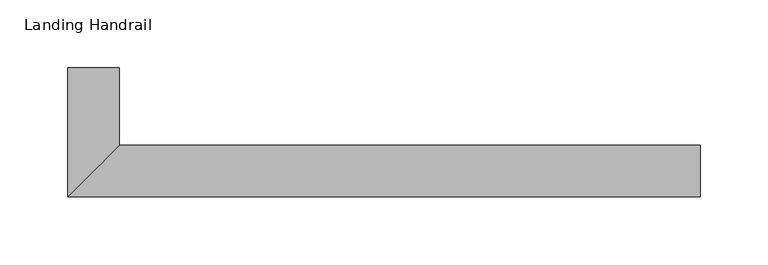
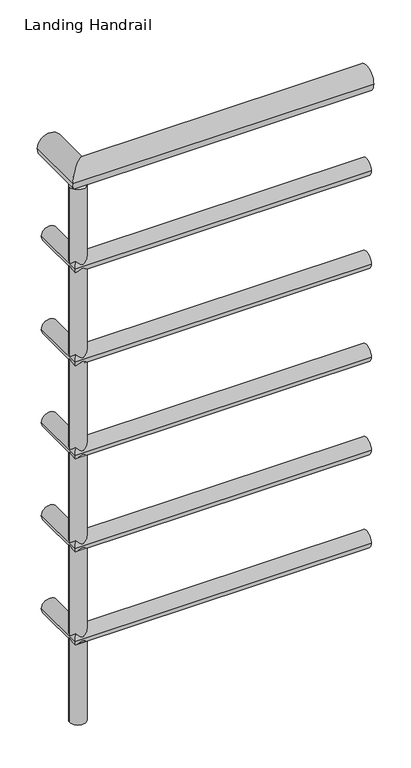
"""IFC4 building model written with IfcOpenShell, lengths in millimetres: railing geometry, Landing Handrail."""

from ifc_helpers import new_model, si_unit, point, frame, frame_2d, origin, place, context, project, spatial, circle_curve, ellipse_curve, trimmed, segment, composite_curve, outline, extrude, source, transform, mapped, element, save
from ifc_brep_helpers import plane_surface, cylinder_surface, advanced_brep


def landing_handrail_f55fafa1(model_context):
    return source(origin(), model_context, "Body", "SolidModel", [
        advanced_brep(
        [(-20724.262755, 6622.8987109, 6381.75), (-20686.162755, 6622.8987109, 6381.75), (-20686.162755, 6565.7487109, 6381.75), (-20724.262755, 6527.6487109, 6381.75), (-20257.537755, 6527.6487109, 6381.75), (-20257.537755, 6565.7487109, 6381.75)],
        [
            (0, 1, circle_curve(frame((-20705.212755, 6622.8987109, 6381.75), z_axis=(0.0, 1.0, 0.0), x_axis=(1.0, 0.0, 0.0)), 19.05)),
            (1, 0, circle_curve(frame((-20705.212755, 6622.8987109, 6381.75), z_axis=(0.0, 1.0, 0.0), x_axis=(1.0, 0.0, 0.0)), 19.05)),
            (1, 2),
            (2, 3, ellipse_curve(frame((-20705.212755, 6546.6987109, 6381.75), z_axis=(-0.7071067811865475, 0.7071067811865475, 0.0), x_axis=(0.7071067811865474, 0.7071067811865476, 0.0)), 26.9407684, 19.05)),
            (3, 0),
            (3, 2, ellipse_curve(frame((-20705.212755, 6546.6987109, 6381.75), z_axis=(-0.7071067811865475, 0.7071067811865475, 0.0), x_axis=(0.7071067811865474, 0.7071067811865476, 0.0)), 26.9407684, 19.05)),
            (4, 5, circle_curve(frame((-20257.537755, 6546.6987109, 6381.75), z_axis=(1.0, 0.0, 0.0), x_axis=(0.0, 1.0, 0.0)), 19.05)),
            (5, 4, circle_curve(frame((-20257.537755, 6546.6987109, 6381.75), z_axis=(1.0, 0.0, 0.0), x_axis=(0.0, 1.0, 0.0)), 19.05)),
            (2, 5),
            (4, 3),
        ],
        [
            plane_surface(frame((-20705.212755, 6622.8987109, 6400.8), z_axis=(0.0, 1.0, 0.0), x_axis=(0.0, 0.0, -1.0))),
            cylinder_surface(frame((-20705.212755, 6622.8987109, 6381.75), z_axis=(0.0, 1.0, 0.0), x_axis=(1.0, 0.0, 0.0)), 19.05),
            plane_surface(frame((-20257.537755, 6546.6987109, 6400.8), z_axis=(1.0, 0.0, 0.0), x_axis=(0.0, 1.0, 0.0))),
            cylinder_surface(frame((-20705.212755, 6546.6987109, 6381.75), z_axis=(-1.0, 0.0, 0.0), x_axis=(0.0, 1.0, 0.0)), 19.05),
        ],
        [
            (0, [[1, 2]]),
            (1, [[-2, 3, 4, 5]]),
            (1, [[-1, -5, 6, -3]]),
            (2, [[7, 8]]),
            (3, [[-4, 9, -7, 10]]),
            (3, [[-6, -10, -8, -9]]),
        ],
    ),
        advanced_brep(
        [(-20717.912755, 6622.8987109, 6235.7), (-20692.512755, 6622.8987109, 6235.7), (-20692.512755, 6559.3987109, 6235.7), (-20717.912755, 6533.9987109, 6235.7), (-20257.537755, 6533.9987109, 6235.7), (-20257.537755, 6559.3987109, 6235.7)],
        [
            (0, 1, circle_curve(frame((-20705.212755, 6622.8987109, 6235.7), z_axis=(0.0, 1.0, 0.0), x_axis=(1.0, 0.0, 0.0)), 12.7)),
            (1, 0, circle_curve(frame((-20705.212755, 6622.8987109, 6235.7), z_axis=(0.0, 1.0, 0.0), x_axis=(1.0, 0.0, 0.0)), 12.7)),
            (1, 2),
            (2, 3, ellipse_curve(frame((-20705.212755, 6546.6987109, 6235.7), z_axis=(-0.7071067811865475, 0.7071067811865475, 0.0), x_axis=(0.7071067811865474, 0.7071067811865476, 0.0)), 17.9605122, 12.7)),
            (3, 0),
            (3, 2, ellipse_curve(frame((-20705.212755, 6546.6987109, 6235.7), z_axis=(-0.7071067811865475, 0.7071067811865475, 0.0), x_axis=(0.7071067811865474, 0.7071067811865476, 0.0)), 17.9605122, 12.7)),
            (4, 5, circle_curve(frame((-20257.537755, 6546.6987109, 6235.7), z_axis=(1.0, 0.0, 0.0), x_axis=(0.0, 1.0, 0.0)), 12.7)),
            (5, 4, circle_curve(frame((-20257.537755, 6546.6987109, 6235.7), z_axis=(1.0, 0.0, 0.0), x_axis=(0.0, 1.0, 0.0)), 12.7)),
            (2, 5),
            (4, 3),
        ],
        [
            plane_surface(frame((-20705.212755, 6622.8987109, 6248.4), z_axis=(0.0, 1.0, 0.0), x_axis=(0.0, 0.0, -1.0))),
            cylinder_surface(frame((-20705.212755, 6622.8987109, 6235.7), z_axis=(0.0, 1.0, 0.0), x_axis=(1.0, 0.0, 0.0)), 12.7),
            plane_surface(frame((-20257.537755, 6546.6987109, 6248.4), z_axis=(1.0, 0.0, 0.0), x_axis=(0.0, 1.0, 0.0))),
            cylinder_surface(frame((-20705.212755, 6546.6987109, 6235.7), z_axis=(-1.0, 0.0, 0.0), x_axis=(0.0, 1.0, 0.0)), 12.7),
        ],
        [
            (0, [[1, 2]]),
            (1, [[-2, 3, 4, 5]]),
            (1, [[-1, -5, 6, -3]]),
            (2, [[7, 8]]),
            (3, [[-4, 9, -7, 10]]),
            (3, [[-6, -10, -8, -9]]),
        ],
    ),
        advanced_brep(
        [(-20717.912755, 6622.8987109, 6083.3), (-20692.512755, 6622.8987109, 6083.3), (-20692.512755, 6559.3987109, 6083.3), (-20717.912755, 6533.9987109, 6083.3), (-20257.537755, 6533.9987109, 6083.3), (-20257.537755, 6559.3987109, 6083.3)],
        [
            (0, 1, circle_curve(frame((-20705.212755, 6622.8987109, 6083.3), z_axis=(0.0, 1.0, 0.0), x_axis=(1.0, 0.0, 0.0)), 12.7)),
            (1, 0, circle_curve(frame((-20705.212755, 6622.8987109, 6083.3), z_axis=(0.0, 1.0, 0.0), x_axis=(1.0, 0.0, 0.0)), 12.7)),
            (1, 2),
            (2, 3, ellipse_curve(frame((-20705.212755, 6546.6987109, 6083.3), z_axis=(-0.7071067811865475, 0.7071067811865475, 0.0), x_axis=(0.7071067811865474, 0.7071067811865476, 0.0)), 17.9605122, 12.7)),
            (3, 0),
            (3, 2, ellipse_curve(frame((-20705.212755, 6546.6987109, 6083.3), z_axis=(-0.7071067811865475, 0.7071067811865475, 0.0), x_axis=(0.7071067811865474, 0.7071067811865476, 0.0)), 17.9605122, 12.7)),
            (4, 5, circle_curve(frame((-20257.537755, 6546.6987109, 6083.3), z_axis=(1.0, 0.0, 0.0), x_axis=(0.0, 1.0, 0.0)), 12.7)),
            (5, 4, circle_curve(frame((-20257.537755, 6546.6987109, 6083.3), z_axis=(1.0, 0.0, 0.0), x_axis=(0.0, 1.0, 0.0)), 12.7)),
            (2, 5),
            (4, 3),
        ],
        [
            plane_surface(frame((-20705.212755, 6622.8987109, 6096.0), z_axis=(0.0, 1.0, 0.0), x_axis=(0.0, 0.0, -1.0))),
            cylinder_surface(frame((-20705.212755, 6622.8987109, 6083.3), z_axis=(0.0, 1.0, 0.0), x_axis=(1.0, 0.0, 0.0)), 12.7),
            plane_surface(frame((-20257.537755, 6546.6987109, 6096.0), z_axis=(1.0, 0.0, 0.0), x_axis=(0.0, 1.0, 0.0))),
            cylinder_surface(frame((-20705.212755, 6546.6987109, 6083.3), z_axis=(-1.0, 0.0, 0.0), x_axis=(0.0, 1.0, 0.0)), 12.7),
        ],
        [
            (0, [[1, 2]]),
            (1, [[-2, 3, 4, 5]]),
            (1, [[-1, -5, 6, -3]]),
            (2, [[7, 8]]),
            (3, [[-4, 9, -7, 10]]),
            (3, [[-6, -10, -8, -9]]),
        ],
    ),
        advanced_brep(
        [(-20717.912755, 6622.8987109, 5930.9), (-20692.512755, 6622.8987109, 5930.9), (-20692.512755, 6559.3987109, 5930.9), (-20717.912755, 6533.9987109, 5930.9), (-20257.537755, 6533.9987109, 5930.9), (-20257.537755, 6559.3987109, 5930.9)],
        [
            (0, 1, circle_curve(frame((-20705.212755, 6622.8987109, 5930.9), z_axis=(0.0, 1.0, 0.0), x_axis=(1.0, 0.0, 0.0)), 12.7)),
            (1, 0, circle_curve(frame((-20705.212755, 6622.8987109, 5930.9), z_axis=(0.0, 1.0, 0.0), x_axis=(1.0, 0.0, 0.0)), 12.7)),
            (1, 2),
            (2, 3, ellipse_curve(frame((-20705.212755, 6546.6987109, 5930.9), z_axis=(-0.7071067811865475, 0.7071067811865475, 0.0), x_axis=(0.7071067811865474, 0.7071067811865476, 0.0)), 17.9605122, 12.7)),
            (3, 0),
            (3, 2, ellipse_curve(frame((-20705.212755, 6546.6987109, 5930.9), z_axis=(-0.7071067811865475, 0.7071067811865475, 0.0), x_axis=(0.7071067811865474, 0.7071067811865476, 0.0)), 17.9605122, 12.7)),
            (4, 5, circle_curve(frame((-20257.537755, 6546.6987109, 5930.9), z_axis=(1.0, 0.0, 0.0), x_axis=(0.0, 1.0, 0.0)), 12.7)),
            (5, 4, circle_curve(frame((-20257.537755, 6546.6987109, 5930.9), z_axis=(1.0, 0.0, 0.0), x_axis=(0.0, 1.0, 0.0)), 12.7)),
            (2, 5),
            (4, 3),
        ],
        [
            plane_surface(frame((-20705.212755, 6622.8987109, 5943.6), z_axis=(0.0, 1.0, 0.0), x_axis=(0.0, 0.0, -1.0))),
            cylinder_surface(frame((-20705.212755, 6622.8987109, 5930.9), z_axis=(0.0, 1.0, 0.0), x_axis=(1.0, 0.0, 0.0)), 12.7),
            plane_surface(frame((-20257.537755, 6546.6987109, 5943.6), z_axis=(1.0, 0.0, 0.0), x_axis=(0.0, 1.0, 0.0))),
            cylinder_surface(frame((-20705.212755, 6546.6987109, 5930.9), z_axis=(-1.0, 0.0, 0.0), x_axis=(0.0, 1.0, 0.0)), 12.7),
        ],
        [
            (0, [[1, 2]]),
            (1, [[-2, 3, 4, 5]]),
            (1, [[-1, -5, 6, -3]]),
            (2, [[7, 8]]),
            (3, [[-4, 9, -7, 10]]),
            (3, [[-6, -10, -8, -9]]),
        ],
    ),
        advanced_brep(
        [(-20717.912755, 6622.8987109, 5778.5), (-20692.512755, 6622.8987109, 5778.5), (-20692.512755, 6559.3987109, 5778.5), (-20717.912755, 6533.9987109, 5778.5), (-20257.537755, 6533.9987109, 5778.5), (-20257.537755, 6559.3987109, 5778.5)],
        [
            (0, 1, circle_curve(frame((-20705.212755, 6622.8987109, 5778.5), z_axis=(0.0, 1.0, 0.0), x_axis=(1.0, 0.0, 0.0)), 12.7)),
            (1, 0, circle_curve(frame((-20705.212755, 6622.8987109, 5778.5), z_axis=(0.0, 1.0, 0.0), x_axis=(1.0, 0.0, 0.0)), 12.7)),
            (1, 2),
            (2, 3, ellipse_curve(frame((-20705.212755, 6546.6987109, 5778.5), z_axis=(-0.7071067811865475, 0.7071067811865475, 0.0), x_axis=(0.7071067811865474, 0.7071067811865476, 0.0)), 17.9605122, 12.7)),
            (3, 0),
            (3, 2, ellipse_curve(frame((-20705.212755, 6546.6987109, 5778.5), z_axis=(-0.7071067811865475, 0.7071067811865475, 0.0), x_axis=(0.7071067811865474, 0.7071067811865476, 0.0)), 17.9605122, 12.7)),
            (4, 5, circle_curve(frame((-20257.537755, 6546.6987109, 5778.5), z_axis=(1.0, 0.0, 0.0), x_axis=(0.0, 1.0, 0.0)), 12.7)),
            (5, 4, circle_curve(frame((-20257.537755, 6546.6987109, 5778.5), z_axis=(1.0, 0.0, 0.0), x_axis=(0.0, 1.0, 0.0)), 12.7)),
            (2, 5),
            (4, 3),
        ],
        [
            plane_surface(frame((-20705.212755, 6622.8987109, 5791.2), z_axis=(0.0, 1.0, 0.0), x_axis=(0.0, 0.0, -1.0))),
            cylinder_surface(frame((-20705.212755, 6622.8987109, 5778.5), z_axis=(0.0, 1.0, 0.0), x_axis=(1.0, 0.0, 0.0)), 12.7),
            plane_surface(frame((-20257.537755, 6546.6987109, 5791.2), z_axis=(1.0, 0.0, 0.0), x_axis=(0.0, 1.0, 0.0))),
            cylinder_surface(frame((-20705.212755, 6546.6987109, 5778.5), z_axis=(-1.0, 0.0, 0.0), x_axis=(0.0, 1.0, 0.0)), 12.7),
        ],
        [
            (0, [[1, 2]]),
            (1, [[-2, 3, 4, 5]]),
            (1, [[-1, -5, 6, -3]]),
            (2, [[7, 8]]),
            (3, [[-4, 9, -7, 10]]),
            (3, [[-6, -10, -8, -9]]),
        ],
    ),
        advanced_brep(
        [(-20717.912755, 6622.8987109, 5626.1), (-20692.512755, 6622.8987109, 5626.1), (-20692.512755, 6559.3987109, 5626.1), (-20717.912755, 6533.9987109, 5626.1), (-20257.537755, 6533.9987109, 5626.1), (-20257.537755, 6559.3987109, 5626.1)],
        [
            (0, 1, circle_curve(frame((-20705.212755, 6622.8987109, 5626.1), z_axis=(0.0, 1.0, 0.0), x_axis=(1.0, 0.0, 0.0)), 12.7)),
            (1, 0, circle_curve(frame((-20705.212755, 6622.8987109, 5626.1), z_axis=(0.0, 1.0, 0.0), x_axis=(1.0, 0.0, 0.0)), 12.7)),
            (1, 2),
            (2, 3, ellipse_curve(frame((-20705.212755, 6546.6987109, 5626.1), z_axis=(-0.7071067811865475, 0.7071067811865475, 0.0), x_axis=(0.7071067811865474, 0.7071067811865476, 0.0)), 17.9605122, 12.7)),
            (3, 0),
            (3, 2, ellipse_curve(frame((-20705.212755, 6546.6987109, 5626.1), z_axis=(-0.7071067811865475, 0.7071067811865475, 0.0), x_axis=(0.7071067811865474, 0.7071067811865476, 0.0)), 17.9605122, 12.7)),
            (4, 5, circle_curve(frame((-20257.537755, 6546.6987109, 5626.1), z_axis=(1.0, 0.0, 0.0), x_axis=(0.0, 1.0, 0.0)), 12.7)),
            (5, 4, circle_curve(frame((-20257.537755, 6546.6987109, 5626.1), z_axis=(1.0, 0.0, 0.0), x_axis=(0.0, 1.0, 0.0)), 12.7)),
            (2, 5),
            (4, 3),
        ],
        [
            plane_surface(frame((-20705.212755, 6622.8987109, 5638.8), z_axis=(0.0, 1.0, 0.0), x_axis=(0.0, 0.0, -1.0))),
            cylinder_surface(frame((-20705.212755, 6622.8987109, 5626.1), z_axis=(0.0, 1.0, 0.0), x_axis=(1.0, 0.0, 0.0)), 12.7),
            plane_surface(frame((-20257.537755, 6546.6987109, 5638.8), z_axis=(1.0, 0.0, 0.0), x_axis=(0.0, 1.0, 0.0))),
            cylinder_surface(frame((-20705.212755, 6546.6987109, 5626.1), z_axis=(-1.0, 0.0, 0.0), x_axis=(0.0, 1.0, 0.0)), 12.7),
        ],
        [
            (0, [[1, 2]]),
            (1, [[-2, 3, 4, 5]]),
            (1, [[-1, -5, 6, -3]]),
            (2, [[7, 8]]),
            (3, [[-4, 9, -7, 10]]),
            (3, [[-6, -10, -8, -9]]),
        ],
    ),
        extrude(outline(composite_curve([segment(trimmed(circle_curve(frame_2d((-20705.212755, 6546.6987109)), 12.7), [point((-20717.912755, 6546.6987109))], [point((-20692.512755, 6546.6987109))], False, "CARTESIAN"), True, "CONTINUOUS"), segment(trimmed(circle_curve(frame_2d((-20705.212755, 6546.6987109)), 12.7), [point((-20692.512755, 6546.6987109))], [point((-20717.912755, 6546.6987109))], False, "CARTESIAN"), True, "CONTINUOUS")], self_intersect=False)), frame((0.0, 0.0, 5486.4), z_axis=(0.0, 0.0, 1.0), x_axis=(1.0, 0.0, 0.0)), (0.0, 0.0, 1.0), 876.3),
    ])


if __name__ == "__main__":
    model = new_model("IFC4")
    model_context = context("Model", 3, world=origin())
    ifc_project = project(units=[si_unit("LENGTHUNIT", "METRE", prefix="MILLI")], contexts=[model_context])
    site = spatial("IfcSite", under=ifc_project)
    building = spatial("IfcBuilding", under=site)
    placement = place(None, origin())
    landing_handrail_shape = landing_handrail_f55fafa1(model_context)
    element("IfcRailing", 1, ObjectType="Landing Handrail", at=placement, inside=building, context=model_context, shape_type="MappedRepresentation", body=[
        mapped(landing_handrail_shape, transform((0.0, 0.0, 0.0), x_axis=(1.0, 0.0, 0.0), y_axis=(0.0, 1.0, 0.0), z_axis=(0.0, 0.0, 1.0))),
    ])
    save(model, "model.ifc")
